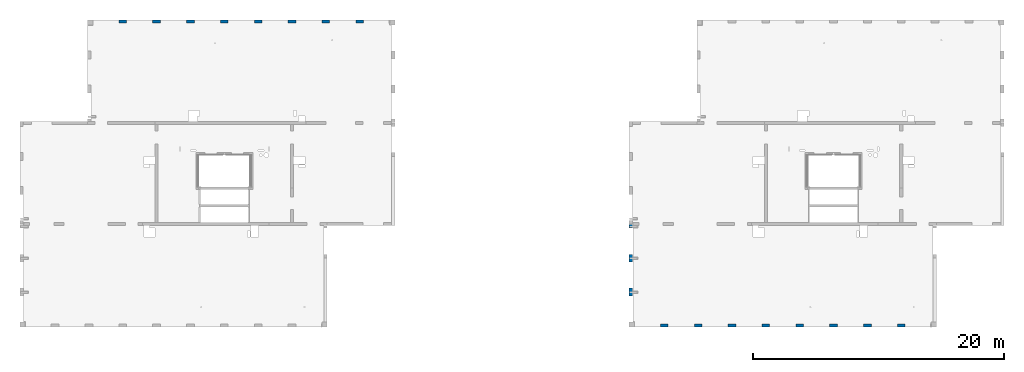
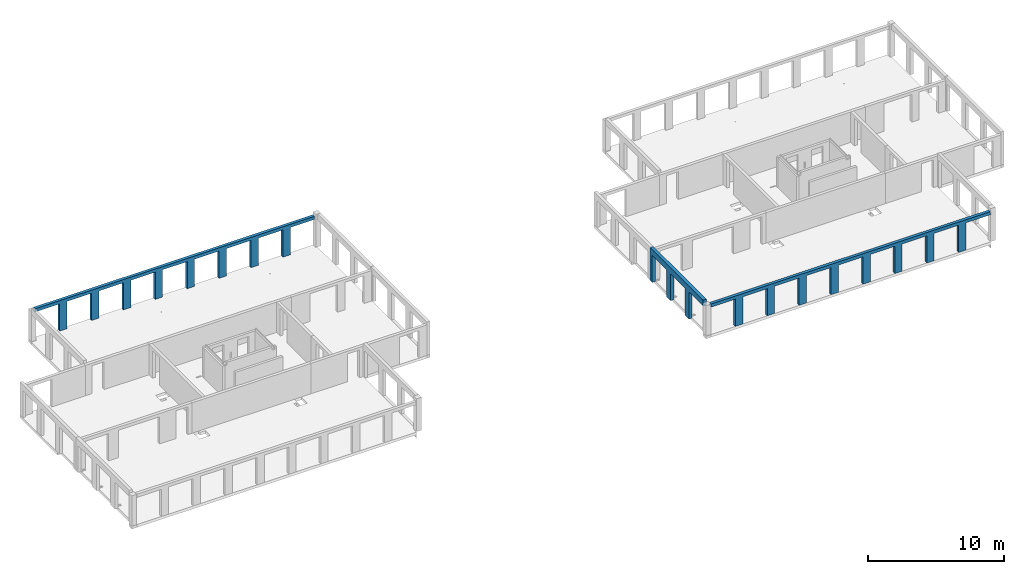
# One storey, part 6 of 13: 3 walls, 21 openings.
"""IFC2X3 building model written with IfcOpenShell, lengths in millimetres."""

from ifc_helpers import new_model, entity, si_unit, converted_unit, derived_unit, direction, frame, frame_2d, origin, place, context, subcontext, project, spatial, rectangle, extrude, material, layer, layer_set, layer_usage, type_object, element, save


model = new_model("IFC2X3")

# Units and contexts
model_context = context("Model", 3, precision=0.01, world=origin(), true_north=direction((6.12303176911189e-17, 1.0)))
body_context = subcontext(model_context, "Body", "Model", "MODEL_VIEW")
ifc_project = project(units=[si_unit("LENGTHUNIT", "METRE", prefix="MILLI"), si_unit("AREAUNIT", "SQUARE_METRE"), si_unit("VOLUMEUNIT", "CUBIC_METRE"), converted_unit("PLANEANGLEUNIT", "DEGREE", entity("IfcRatioMeasure", 0.0174532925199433), si_unit("PLANEANGLEUNIT", "RADIAN"), dimensions=[0, 0, 0, 0, 0, 0, 0]), si_unit("MASSUNIT", "GRAM", prefix="KILO"), derived_unit("MASSDENSITYUNIT", [(si_unit("MASSUNIT", "GRAM", prefix="KILO"), 1), (si_unit("LENGTHUNIT", "METRE"), -3)]), si_unit("TIMEUNIT", "SECOND"), si_unit("FREQUENCYUNIT", "HERTZ"), si_unit("THERMODYNAMICTEMPERATUREUNIT", "DEGREE_CELSIUS"), derived_unit("THERMALTRANSMITTANCEUNIT", [(si_unit("MASSUNIT", "GRAM", prefix="KILO"), 1), (si_unit("THERMODYNAMICTEMPERATUREUNIT", "KELVIN"), -1), (si_unit("TIMEUNIT", "SECOND"), -3)]), derived_unit("VOLUMETRICFLOWRATEUNIT", [(si_unit("LENGTHUNIT", "METRE"), 3), (si_unit("TIMEUNIT", "SECOND"), -1)]), si_unit("ELECTRICCURRENTUNIT", "AMPERE"), si_unit("ELECTRICVOLTAGEUNIT", "VOLT"), si_unit("POWERUNIT", "WATT"), si_unit("FORCEUNIT", "NEWTON", prefix="KILO"), si_unit("ILLUMINANCEUNIT", "LUX"), si_unit("LUMINOUSFLUXUNIT", "LUMEN"), si_unit("LUMINOUSINTENSITYUNIT", "CANDELA"), derived_unit("USERDEFINED", [(si_unit("MASSUNIT", "GRAM", prefix="KILO"), -1), (si_unit("LENGTHUNIT", "METRE"), -2), (si_unit("TIMEUNIT", "SECOND"), 3), (si_unit("LUMINOUSFLUXUNIT", "LUMEN"), 1)]), derived_unit("LINEARVELOCITYUNIT", [(si_unit("LENGTHUNIT", "METRE"), 1), (si_unit("TIMEUNIT", "SECOND"), -1)]), si_unit("PRESSUREUNIT", "PASCAL"), derived_unit("USERDEFINED", [(si_unit("LENGTHUNIT", "METRE"), -2), (si_unit("MASSUNIT", "GRAM", prefix="KILO"), 1), (si_unit("TIMEUNIT", "SECOND"), -2)])], contexts=[model_context])

# Site, building, storey
site_placement = place(None, origin())
site = spatial("IfcSite", under=ifc_project, at=site_placement, Name="Default", CompositionType="ELEMENT")
building_placement = place(site_placement, origin())
building = spatial("IfcBuilding", under=site, at=building_placement, Name="niet gebruiken", CompositionType="ELEMENT")
storey_placement = place(building_placement, frame((0.0, 0.0, 60120.0)))
storey = spatial("IfcBuildingStorey", under=building, at=storey_placement, Name="20 twintigste verdieping", CompositionType="ELEMENT", Elevation=60120.0)

# Wall, openings
ifc_material_1 = material(Name="NLRS_f2_beton ihwg")
ifc_layer_1 = layer(ifc_material_1, 250.0)
ifc_layer_set_1 = layer_set([ifc_layer_1], Name="Basic Wall:NLRS_21.21_WA_beton ihwg d=250_gen")
ifc_layer_usage_1 = layer_usage(ifc_layer_set_1, "AXIS2", "NEGATIVE", 125.0)
wall_type_1 = type_object("IfcWallType", Name="Basic Wall:NLRS_21.21_WA_beton ihwg d=250_gen", PredefinedType="STANDARD", material=ifc_layer_set_1)
wall_1_placement = place(storey_placement, frame((75930.0, 28881.0, -90.0)))
wall_1 = element("IfcWallStandardCase", 1, at=wall_1_placement, inside=storey, type_object=wall_type_1, material=ifc_layer_usage_1, Name="Basic Wall:NLRS_21.21_WA_beton ihwg d=250_gen", ObjectType="Basic Wall:NLRS_21.21_WA_beton ihwg d=250_gen", context=body_context, shape_type="SweptSolid", body=[
    extrude(rectangle(XDim=23640.0000000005, YDim=250.000000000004, at=frame_2d((11820.0000000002, -8.66862137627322e-13), x_axis=(-1.0, 0.0))), origin(), (0.0, 0.0, 1.0), 2720.00000000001),
])
opening_1_placement = place(wall_1_placement, origin())
element("IfcOpeningElement", 2, at=opening_1_placement, cuts=wall_1, Name="Basic Wall:NLRS_21.21_WA_beton ihwg d=250_gen", ObjectType="Opening", context=body_context, shape_type="SweptSolid", body=[
    extrude(rectangle(XDim=2440.0, YDim=2080.0, at=frame_2d((-8.64019966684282e-12, 0.0), x_axis=(0.0, 1.0))), frame((22620.0, -1399.0, 1220.0), z_axis=(0.0, 1.0, 0.0), x_axis=(-1.0, 0.0, 0.0)), (0.0, 0.0, 1.0), 3048.0),
])
opening_2_placement = place(wall_1_placement, origin())
element("IfcOpeningElement", 3, at=opening_2_placement, cuts=wall_1, Name="Basic Wall:NLRS_21.21_WA_beton ihwg d=250_gen", ObjectType="Opening", context=body_context, shape_type="SweptSolid", body=[
    extrude(rectangle(XDim=2440.0, YDim=2080.0, at=frame_2d((-8.64019966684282e-12, 0.0), x_axis=(0.0, 1.0))), frame((19920.0, -1399.0, 1220.0), z_axis=(0.0, 1.0, 0.0), x_axis=(-1.0, 0.0, 0.0)), (0.0, 0.0, 1.0), 3048.0),
])
opening_3_placement = place(wall_1_placement, origin())
element("IfcOpeningElement", 4, at=opening_3_placement, cuts=wall_1, Name="Basic Wall:NLRS_21.21_WA_beton ihwg d=250_gen", ObjectType="Opening", context=body_context, shape_type="SweptSolid", body=[
    extrude(rectangle(XDim=2440.0, YDim=2080.0, at=frame_2d((-8.64019966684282e-12, 0.0), x_axis=(0.0, 1.0))), frame((17220.0, -1399.0, 1220.0), z_axis=(0.0, 1.0, 0.0), x_axis=(-1.0, 0.0, 0.0)), (0.0, 0.0, 1.0), 3048.0),
])
opening_4_placement = place(wall_1_placement, origin())
element("IfcOpeningElement", 5, at=opening_4_placement, cuts=wall_1, Name="Basic Wall:NLRS_21.21_WA_beton ihwg d=250_gen", ObjectType="Opening", context=body_context, shape_type="SweptSolid", body=[
    extrude(rectangle(XDim=2440.0, YDim=2080.0, at=frame_2d((8.64019966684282e-12, 0.0), x_axis=(0.0, 1.0))), frame((14520.0, -1399.0, 1220.0), z_axis=(0.0, 1.0, 0.0), x_axis=(-1.0, 0.0, 0.0)), (0.0, 0.0, 1.0), 3048.0),
])
opening_5_placement = place(wall_1_placement, origin())
element("IfcOpeningElement", 6, at=opening_5_placement, cuts=wall_1, Name="Basic Wall:NLRS_21.21_WA_beton ihwg d=250_gen", ObjectType="Opening", context=body_context, shape_type="SweptSolid", body=[
    extrude(rectangle(XDim=2440.0, YDim=2080.0, at=frame_2d((-8.64019966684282e-12, 0.0), x_axis=(0.0, 1.0))), frame((11820.0, -1399.0, 1220.0), z_axis=(0.0, 1.0, 0.0), x_axis=(-1.0, 0.0, 0.0)), (0.0, 0.0, 1.0), 3048.0),
])
opening_6_placement = place(wall_1_placement, origin())
element("IfcOpeningElement", 7, at=opening_6_placement, cuts=wall_1, Name="Basic Wall:NLRS_21.21_WA_beton ihwg d=250_gen", ObjectType="Opening", context=body_context, shape_type="SweptSolid", body=[
    extrude(rectangle(XDim=2440.0, YDim=2080.0, at=frame_2d((-8.64019966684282e-12, 0.0), x_axis=(0.0, 1.0))), frame((9120.0, -1399.0, 1220.0), z_axis=(0.0, 1.0, 0.0), x_axis=(-1.0, 0.0, 0.0)), (0.0, 0.0, 1.0), 3048.0),
])
opening_7_placement = place(wall_1_placement, origin())
element("IfcOpeningElement", 8, at=opening_7_placement, cuts=wall_1, Name="Basic Wall:NLRS_21.21_WA_beton ihwg d=250_gen", ObjectType="Opening", context=body_context, shape_type="SweptSolid", body=[
    extrude(rectangle(XDim=2440.0, YDim=2080.0, at=frame_2d((8.64019966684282e-12, 0.0), x_axis=(0.0, 1.0))), frame((6420.0, -1399.0, 1220.0), z_axis=(0.0, 1.0, 0.0), x_axis=(-1.0, 0.0, 0.0)), (0.0, 0.0, 1.0), 3048.0),
])
opening_8_placement = place(wall_1_placement, origin())
element("IfcOpeningElement", 9, at=opening_8_placement, cuts=wall_1, Name="Basic Wall:NLRS_21.21_WA_beton ihwg d=250_gen", ObjectType="Opening", context=body_context, shape_type="SweptSolid", body=[
    extrude(rectangle(XDim=2440.0, YDim=2080.0, at=frame_2d((8.64019966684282e-12, 0.0), x_axis=(0.0, 1.0))), frame((3720.0, -1399.0, 1220.0), z_axis=(0.0, 1.0, 0.0), x_axis=(-1.0, 0.0, 0.0)), (0.0, 0.0, 1.0), 3048.0),
])
opening_9_placement = place(wall_1_placement, origin())
element("IfcOpeningElement", 10, at=opening_9_placement, cuts=wall_1, Name="Basic Wall:NLRS_21.21_WA_beton ihwg d=250_gen", ObjectType="Opening", context=body_context, shape_type="SweptSolid", body=[
    extrude(rectangle(XDim=2440.0, YDim=2080.0, at=frame_2d((0.0, 0.0), x_axis=(0.0, 1.0))), frame((1020.0, -1399.0, 1220.0), z_axis=(0.0, 1.0, 0.0), x_axis=(-1.0, 0.0, 0.0)), (0.0, 0.0, 1.0), 3048.0),
])

ifc_layer_usage_2 = layer_usage(ifc_layer_set_1, "AXIS2", "NEGATIVE", 125.0)
wall_2_placement = place(storey_placement, frame((56370.0, 53131.0, -90.0), z_axis=(0.0, 0.0, 1.0), x_axis=(-1.0, 0.0, 0.0)))
wall_2 = element("IfcWallStandardCase", 11, at=wall_2_placement, inside=storey, type_object=wall_type_1, material=ifc_layer_usage_2, Name="Basic Wall:NLRS_21.21_WA_beton ihwg d=250_gen", ObjectType="Basic Wall:NLRS_21.21_WA_beton ihwg d=250_gen", context=body_context, shape_type="SweptSolid", body=[
    extrude(rectangle(XDim=23640.0000000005, YDim=249.999999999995, at=frame_2d((11820.0000000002, 5.82645043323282e-13), x_axis=(-1.0, 0.0))), origin(), (0.0, 0.0, 1.0), 2720.00000000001),
])
opening_10_placement = place(wall_2_placement, origin())
element("IfcOpeningElement", 12, at=opening_10_placement, cuts=wall_2, Name="Basic Wall:NLRS_21.21_WA_beton ihwg d=250_gen", ObjectType="Opening", context=body_context, shape_type="SweptSolid", body=[
    extrude(rectangle(XDim=2440.0, YDim=2080.0, at=frame_2d((-2.1600499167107e-12, 0.0), x_axis=(0.0, 1.0))), frame((22620.0, -1399.0, 1220.0), z_axis=(0.0, 1.0, 0.0), x_axis=(-1.0, 0.0, 0.0)), (0.0, 0.0, 1.0), 3048.0),
])
opening_11_placement = place(wall_2_placement, origin())
element("IfcOpeningElement", 13, at=opening_11_placement, cuts=wall_2, Name="Basic Wall:NLRS_21.21_WA_beton ihwg d=250_gen", ObjectType="Opening", context=body_context, shape_type="SweptSolid", body=[
    extrude(rectangle(XDim=2440.0, YDim=2080.0, at=frame_2d((2.1600499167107e-12, 0.0), x_axis=(0.0, 1.0))), frame((19920.0, -1399.0, 1220.0), z_axis=(0.0, 1.0, 0.0), x_axis=(-1.0, 0.0, 0.0)), (0.0, 0.0, 1.0), 3048.0),
])
opening_12_placement = place(wall_2_placement, origin())
element("IfcOpeningElement", 14, at=opening_12_placement, cuts=wall_2, Name="Basic Wall:NLRS_21.21_WA_beton ihwg d=250_gen", ObjectType="Opening", context=body_context, shape_type="SweptSolid", body=[
    extrude(rectangle(XDim=2440.0, YDim=2079.99999999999, at=frame_2d((2.1600499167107e-12, 0.0), x_axis=(0.0, 1.0))), frame((17220.0, -1399.0, 1220.0), z_axis=(0.0, 1.0, 0.0), x_axis=(-1.0, 0.0, 0.0)), (0.0, 0.0, 1.0), 3048.0),
])
opening_13_placement = place(wall_2_placement, origin())
element("IfcOpeningElement", 15, at=opening_13_placement, cuts=wall_2, Name="Basic Wall:NLRS_21.21_WA_beton ihwg d=250_gen", ObjectType="Opening", context=body_context, shape_type="SweptSolid", body=[
    extrude(rectangle(XDim=2440.0, YDim=2080.0, at=frame_2d((0.0, 0.0), x_axis=(0.0, 1.0))), frame((14520.0, -1399.0, 1220.0), z_axis=(0.0, 1.0, 0.0), x_axis=(-1.0, 0.0, 0.0)), (0.0, 0.0, 1.0), 3048.0),
])
opening_14_placement = place(wall_2_placement, origin())
element("IfcOpeningElement", 16, at=opening_14_placement, cuts=wall_2, Name="Basic Wall:NLRS_21.21_WA_beton ihwg d=250_gen", ObjectType="Opening", context=body_context, shape_type="SweptSolid", body=[
    extrude(rectangle(XDim=2440.0, YDim=2080.0, at=frame_2d((0.0, 0.0), x_axis=(0.0, 1.0))), frame((11820.0, -1399.0, 1220.0), z_axis=(0.0, 1.0, 0.0), x_axis=(-1.0, 0.0, 0.0)), (0.0, 0.0, 1.0), 3048.0),
])
opening_15_placement = place(wall_2_placement, origin())
element("IfcOpeningElement", 17, at=opening_15_placement, cuts=wall_2, Name="Basic Wall:NLRS_21.21_WA_beton ihwg d=250_gen", ObjectType="Opening", context=body_context, shape_type="SweptSolid", body=[
    extrude(rectangle(XDim=2440.0, YDim=2080.0, at=frame_2d((0.0, 0.0), x_axis=(0.0, 1.0))), frame((9120.0, -1399.0, 1220.0), z_axis=(0.0, 1.0, 0.0), x_axis=(-1.0, 0.0, 0.0)), (0.0, 0.0, 1.0), 3048.0),
])
opening_16_placement = place(wall_2_placement, origin())
element("IfcOpeningElement", 18, at=opening_16_placement, cuts=wall_2, Name="Basic Wall:NLRS_21.21_WA_beton ihwg d=250_gen", ObjectType="Opening", context=body_context, shape_type="SweptSolid", body=[
    extrude(rectangle(XDim=2440.0, YDim=2080.0, at=frame_2d((0.0, 0.0), x_axis=(0.0, 1.0))), frame((6420.0, -1399.0, 1220.0), z_axis=(0.0, 1.0, 0.0), x_axis=(-1.0, 0.0, 0.0)), (0.0, 0.0, 1.0), 3048.0),
])
opening_17_placement = place(wall_2_placement, origin())
element("IfcOpeningElement", 19, at=opening_17_placement, cuts=wall_2, Name="Basic Wall:NLRS_21.21_WA_beton ihwg d=250_gen", ObjectType="Opening", context=body_context, shape_type="SweptSolid", body=[
    extrude(rectangle(XDim=2440.0, YDim=2080.0, at=frame_2d((0.0, 0.0), x_axis=(0.0, 1.0))), frame((3720.0, -1399.0, 1220.0), z_axis=(0.0, 1.0, 0.0), x_axis=(-1.0, 0.0, 0.0)), (0.0, 0.0, 1.0), 3048.0),
])
opening_18_placement = place(wall_2_placement, origin())
element("IfcOpeningElement", 20, at=opening_18_placement, cuts=wall_2, Name="Basic Wall:NLRS_21.21_WA_beton ihwg d=250_gen", ObjectType="Opening", context=body_context, shape_type="SweptSolid", body=[
    extrude(rectangle(XDim=2440.0, YDim=2080.0, at=frame_2d((8.64019966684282e-12, 0.0), x_axis=(0.0, 1.0))), frame((1020.0, -1399.0, 1220.0), z_axis=(0.0, 1.0, 0.0), x_axis=(-1.0, 0.0, 0.0)), (0.0, 0.0, 1.0), 3048.0),
])

ifc_material_2 = material(Name="NLRS_f2_beton prefab")
ifc_layer_2 = layer(ifc_material_2, 270.0)
ifc_layer_set_2 = layer_set([ifc_layer_2], Name="Basic Wall:NLRS_21.21_WA_beton prefab d=270_gen")
ifc_layer_usage_3 = layer_usage(ifc_layer_set_2, "AXIS2", "NEGATIVE", 135.0)
wall_type_2 = type_object("IfcWallType", Name="Basic Wall:NLRS_21.21_WA_beton prefab d=270_gen", PredefinedType="STANDARD", material=ifc_layer_set_2)
wall_3_placement = place(storey_placement, frame((75635.0, 36946.0, -70.0), z_axis=(0.0, 0.0, 1.0), x_axis=(0.0, -1.0, 0.0)))
wall_3 = element("IfcWallStandardCase", 21, at=wall_3_placement, inside=storey, type_object=wall_type_2, material=ifc_layer_usage_3, Name="Basic Wall:NLRS_21.21_WA_beton prefab d=270_gen", ObjectType="Basic Wall:NLRS_21.21_WA_beton prefab d=270_gen", context=body_context, shape_type="SweptSolid", body=[
    extrude(rectangle(XDim=7780.00000000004, YDim=270.000000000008, at=frame_2d((3890.00000000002, 0.0), x_axis=(-1.0, 0.0))), origin(), (0.0, 0.0, 1.0), 2950.00000000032),
])
opening_19_placement = place(wall_3_placement, origin())
element("IfcOpeningElement", 22, at=opening_19_placement, cuts=wall_3, Name="Basic Wall:NLRS_21.21_WA_beton prefab d=270_gen", ObjectType="Opening", context=body_context, shape_type="SweptSolid", body=[
    extrude(rectangle(XDim=2420.0, YDim=2080.0, at=frame_2d((-2.1600499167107e-12, 0.0), x_axis=(0.0, 1.0))), frame((1340.0, -1389.0, 1210.0), z_axis=(0.0, 1.0, 0.0), x_axis=(-1.0, 0.0, 0.0)), (0.0, 0.0, 1.0), 3048.0),
])
opening_20_placement = place(wall_3_placement, origin())
element("IfcOpeningElement", 23, at=opening_20_placement, cuts=wall_3, Name="Basic Wall:NLRS_21.21_WA_beton prefab d=270_gen", ObjectType="Opening", context=body_context, shape_type="SweptSolid", body=[
    extrude(rectangle(XDim=2420.0, YDim=2080.0, at=frame_2d((2.1600499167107e-12, 0.0), x_axis=(0.0, 1.0))), frame((4040.0, -1389.0, 1210.0), z_axis=(0.0, 1.0, 0.0), x_axis=(-1.0, 0.0, 0.0)), (0.0, 0.0, 1.0), 3048.0),
])
opening_21_placement = place(wall_3_placement, origin())
element("IfcOpeningElement", 24, at=opening_21_placement, cuts=wall_3, Name="Basic Wall:NLRS_21.21_WA_beton prefab d=270_gen", ObjectType="Opening", context=body_context, shape_type="SweptSolid", body=[
    extrude(rectangle(XDim=2420.0, YDim=2080.0, at=frame_2d((2.1600499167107e-12, 0.0), x_axis=(0.0, 1.0))), frame((6740.0, -1389.0, 1210.0), z_axis=(0.0, 1.0, 0.0), x_axis=(-1.0, 0.0, 0.0)), (0.0, 0.0, 1.0), 3048.0),
])

save(model, "model.ifc")
